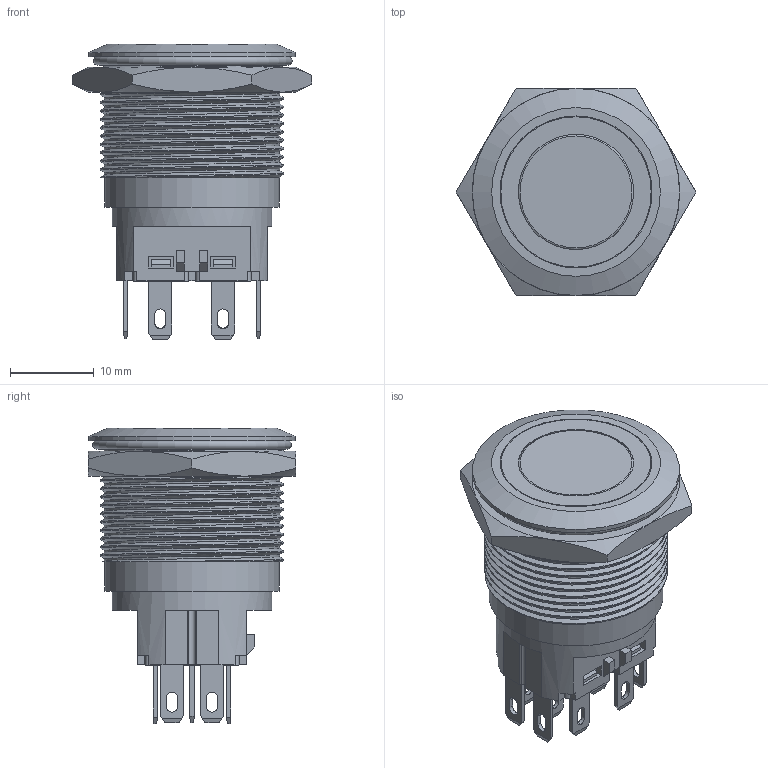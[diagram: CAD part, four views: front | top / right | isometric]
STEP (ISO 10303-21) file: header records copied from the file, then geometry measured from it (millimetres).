
FILE_DESCRIPTION(/* description */ (''),/* implementation_level */ '2;1');
FILE_NAME(/* name */ 'J22-271-M.stp',/* time_stamp */ '2023-10-06T13:35:43+08:00',/* author */ (''),/* organization */ (''),/* preprocessor_version */ 'ST-DEVELOPER v11',/* originating_system */ 'SIEMENS UGS NX 6.0',/* authorisation */ '');
FILE_SCHEMA (('CONFIG_CONTROL_DESIGN'));
Length unit declared in the file: millimetre
Products named in the file (1): J22-271-M
Bounding box: 28.7 x 24.85 x 35.4 mm (x, y, z)
Volume: 4892.2 mm3; surface area: 10321.3 mm2
Topology: 18 solids, 18 shells, 1225 faces, 3364 edges, 2200 vertices
Faces by surface type: plane 1027, cylinder 127, extrusion 38, cone 26, bspline 4, torus 3
Full cylindrical faces by diameter (mm): 4.8 x1, 5.4 x1, 5.5 x1, 8.5 x1, 11 x1, 13.8 x2, 18 x1, 18.199 x1, 19.1 x1, 20 x1, 20.299 x1, 20.899 x1, 24.8 x1
Entity records: 43728 total; most frequent: CARTESIAN_POINT 12442, ORIENTED_EDGE 6692, DIRECTION 5934, EDGE_CURVE 3346, VECTOR 2966, LINE 2928, VERTEX_POINT 2210, AXIS2_PLACEMENT_3D 1484
